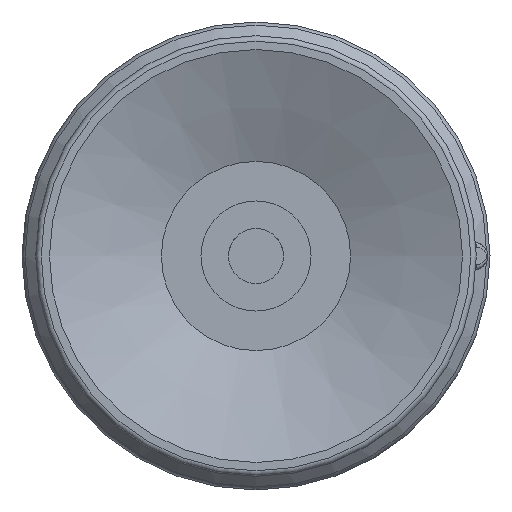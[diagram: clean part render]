
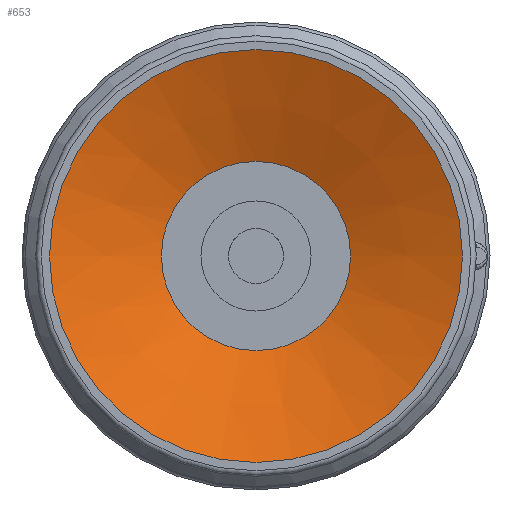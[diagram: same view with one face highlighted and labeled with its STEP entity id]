
A CAD part, front view. The second image highlights one B-rep face of the part: STEP entity #653.
In plain terms, the highlighted conical face has half-angle 67.5 degrees and reference radius 3.437 mm.
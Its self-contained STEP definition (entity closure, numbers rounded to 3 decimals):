
#653=ADVANCED_FACE('',(#950,#951),#952,.F.);
#950=FACE_BOUND('',#2282,.T.);
#951=FACE_OUTER_BOUND('',#2283,.T.);
#952=CONICAL_SURFACE('',#2284,3.437,1.178);
#2282=EDGE_LOOP('',(#3103));
#2283=EDGE_LOOP('',(#3104));
#2284=AXIS2_PLACEMENT_3D('',#3105,#3106,#3107);
#3103=ORIENTED_EDGE('',*,*,#3399,.F.);
#3104=ORIENTED_EDGE('',*,*,#3387,.T.);
#3105=CARTESIAN_POINT('',(0.0,0.0,1.683));
#3106=DIRECTION('',(0.0,0.,-1.0));
#3107=DIRECTION('',(0.0,1.0,0.));
#3387=EDGE_CURVE('',#3774,#3774,#3775,.T.);
#3399=EDGE_CURVE('',#3798,#3798,#3799,.T.);
#3774=VERTEX_POINT('',#4811);
#3775=CIRCLE('',#4812,7.5);
#3798=VERTEX_POINT('',#4835);
#3799=CIRCLE('',#4836,3.437);
#4811=CARTESIAN_POINT('',(-7.5,0.0,0.));
#4812=AXIS2_PLACEMENT_3D('',#5129,#5130,#5131);
#4835=CARTESIAN_POINT('',(-3.437,0.0,1.683));
#4836=AXIS2_PLACEMENT_3D('',#5165,#5166,#5167);
#5129=CARTESIAN_POINT('',(0.0,0.0,0.));
#5130=DIRECTION('',(0.0,0.,-1.0));
#5131=DIRECTION('',(0.0,1.0,0.));
#5165=CARTESIAN_POINT('',(0.0,0.0,1.683));
#5166=DIRECTION('',(0.0,0.,-1.0));
#5167=DIRECTION('',(0.0,1.0,0.));
